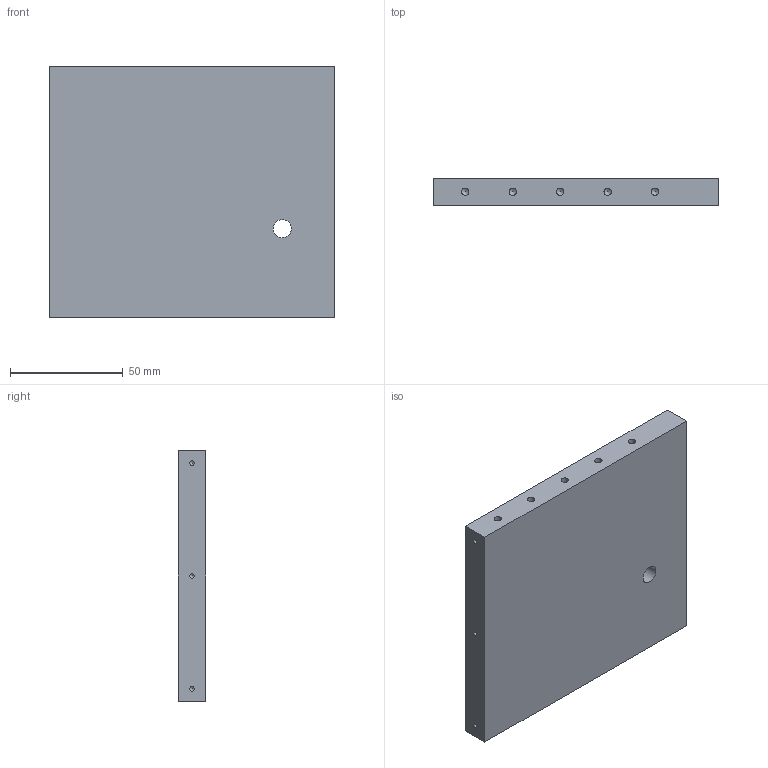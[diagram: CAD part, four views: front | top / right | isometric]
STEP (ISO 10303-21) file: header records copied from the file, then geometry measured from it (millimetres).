
FILE_DESCRIPTION(/* description */ (''),/* implementation_level */ '2;1');
FILE_NAME(/* name */ 'C:\Users\strothej\Documents\ActualDocuments\MicroscopeParts\TwoPhotonSystem\ScanningMechanics\v34\Drawings\Enclosure_Panel2.stp',/* time_stamp */ '2017-09-11T12:09:07-07:00',/* author */ ('strothej'),/* organization */ (''),/* preprocessor_version */ 'ST-DEVELOPER v16.1',/* originating_system */ 'Autodesk Inventor 2016',/* authorisation */ '');
FILE_SCHEMA (('AUTOMOTIVE_DESIGN { 1 0 10303 214 3 1 1 }'));
Length unit declared in the file: millimetre
Products named in the file (1): Enclosure_Panel2
Bounding box: 126 x 12 x 111 mm (x, y, z)
Volume: 165046.4 mm3; surface area: 36337.9 mm2
Topology: 1 solids, 1 shells, 47 faces, 115 edges, 70 vertices
Faces by surface type: cylinder 21, cone 20, plane 6
Full cylindrical faces by diameter (mm): 2.013 x5, 3.242 x10, 4.134 x5, 8 x1
Entity records: 1014 total; most frequent: DIRECTION 192, CARTESIAN_POINT 152, ORIENTED_EDGE 108, EDGE_LOOP 90, AXIS2_PLACEMENT_3D 90, EDGE_CURVE 54, VERTEX_POINT 50, FACE_OUTER_BOUND 47
